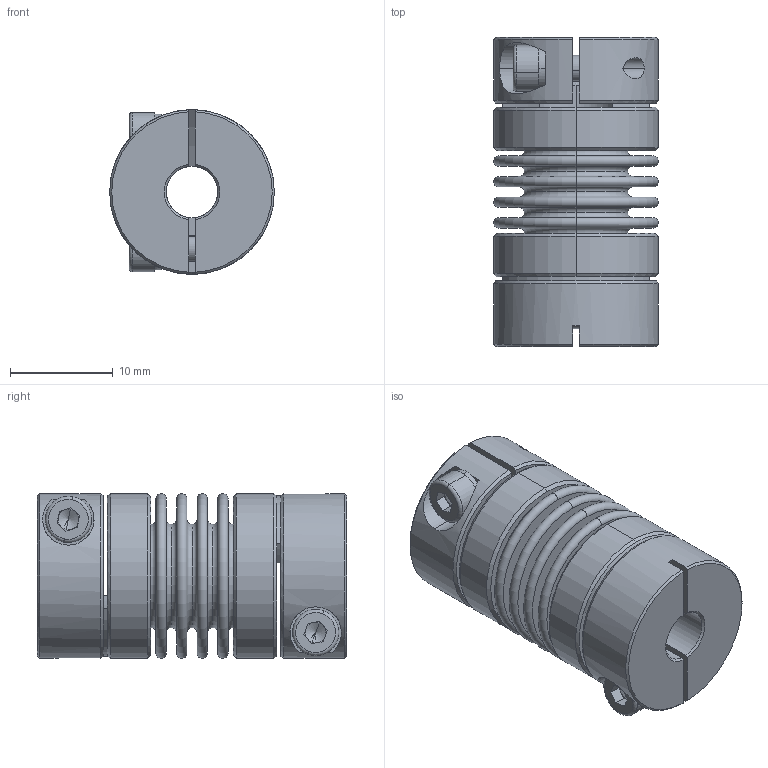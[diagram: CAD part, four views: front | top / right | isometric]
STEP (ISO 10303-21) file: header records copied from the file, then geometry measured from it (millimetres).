
FILE_DESCRIPTION (( 'STEP AP203' ), '1' );
FILE_NAME ('LB-B-D16L30-5-8.STEP', '2021-11-04T01:13:58', ( '' ), ( '' ), 'SwSTEP 2.0', 'SolidWorks 2018', '' );
FILE_SCHEMA (( 'CONFIG_CONTROL_DESIGN' ));
Length unit declared in the file: millimetre
Products named in the file (2): LB-B-D16L30-5-8; 零件1^LB-B-D16L30 波纹管联轴器-组装体
Assembly tree (1 placements, depth 2):
  LB-B-D16L30-5-8
    零件1^LB-B-D16L30 波纹管联轴器-组装体
Bounding box: 16 x 30.04 x 16 mm (x, y, z)
Volume: 3008.4 mm3; surface area: 6416.7 mm2
Topology: 1 solids, 1 shells, 254 faces, 586 edges, 362 vertices
Faces by surface type: plane 86, torus 68, cylinder 66, cone 34
Entity records: 7660 total; most frequent: CARTESIAN_POINT 1472, DIRECTION 1420, ORIENTED_EDGE 1164, AXIS2_PLACEMENT_3D 622, EDGE_CURVE 582, CIRCLE 364, VERTEX_POINT 362, EDGE_LOOP 296
